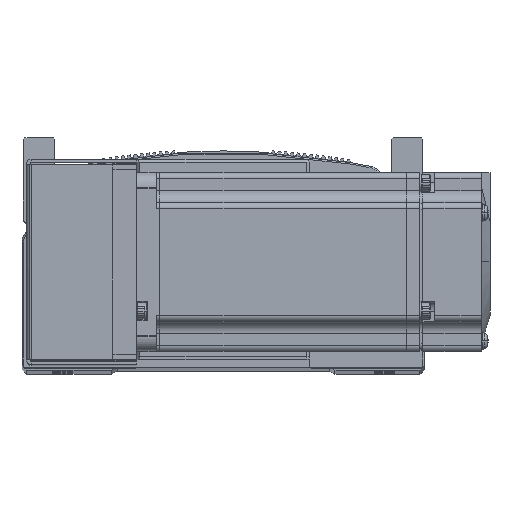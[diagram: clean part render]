
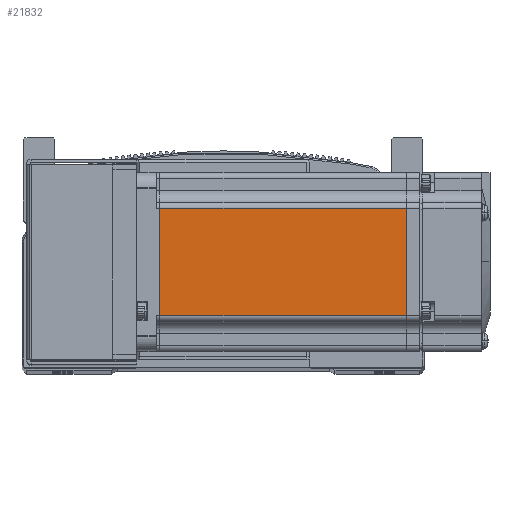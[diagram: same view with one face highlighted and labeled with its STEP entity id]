
A CAD part, top view. The second image highlights one B-rep face of the part: STEP entity #21832.
In plain terms, the highlighted planar face has unit normal (0, 0, 1) as drawn and (0, 0, -1) by its records, which use the part's own axes.
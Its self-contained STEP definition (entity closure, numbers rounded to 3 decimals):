
#19050 = AXIS2_PLACEMENT_3D ( 'NONE', #44912, #44913, #44921 ) ;
#19689 = FACE_OUTER_BOUND ( 'NONE', #30758, .T. ) ;
#21832 = ADVANCED_FACE ( 'NONE', ( #19689 ), #44897, .T. ) ;
#22893 = VECTOR ( 'NONE', #26368, 1000. ) ;
#22922 = LINE ( 'NONE', #26429, #22944 ) ;
#22933 = LINE ( 'NONE', #26354, #22893 ) ;
#22944 = VECTOR ( 'NONE', #26406, 1000. ) ;
#26354 = CARTESIAN_POINT ( 'NONE',  ( -6.5, -18., -30. ) ) ;
#26368 = DIRECTION ( 'NONE',  ( -1., 0., 0. ) ) ;
#26406 = DIRECTION ( 'NONE',  ( 0., -1., 0. ) ) ;
#26429 = CARTESIAN_POINT ( 'NONE',  ( -7.75, 25., -30. ) ) ;
#26509 = DIRECTION ( 'NONE',  ( 0., 1., 0. ) ) ;
#26531 = CARTESIAN_POINT ( 'NONE',  ( -90.45, 25., -30. ) ) ;
#26729 = CARTESIAN_POINT ( 'NONE',  ( -6.5, 18., -30. ) ) ;
#26730 = DIRECTION ( 'NONE',  ( 1., 0., 0. ) ) ;
#28433 = CARTESIAN_POINT ( 'NONE',  ( -90.45, -18., -30. ) ) ;
#28478 = CARTESIAN_POINT ( 'NONE',  ( -7.75, 18., -30. ) ) ;
#28533 = CARTESIAN_POINT ( 'NONE',  ( -90.45, 18., -30. ) ) ;
#28736 = CARTESIAN_POINT ( 'NONE',  ( -7.75, -18., -30. ) ) ;
#30758 = EDGE_LOOP ( 'NONE', ( #48404, #73144, #73163, #73152 ) ) ;
#31038 = VECTOR ( 'NONE', #26509, 1000. ) ;
#31074 = LINE ( 'NONE', #26531, #31038 ) ;
#31314 = VECTOR ( 'NONE', #26730, 1000. ) ;
#31335 = LINE ( 'NONE', #26729, #31314 ) ;
#44897 = PLANE ( 'NONE',  #19050 ) ;
#44912 = CARTESIAN_POINT ( 'NONE',  ( -6.5, 25., -30. ) ) ;
#44913 = DIRECTION ( 'NONE',  ( 0., 0., -1. ) ) ;
#44921 = DIRECTION ( 'NONE',  ( -1., 0., 0. ) ) ;
#47067 = VERTEX_POINT ( 'NONE', #28478 ) ;
#47089 = VERTEX_POINT ( 'NONE', #28433 ) ;
#47135 = VERTEX_POINT ( 'NONE', #28533 ) ;
#47237 = VERTEX_POINT ( 'NONE', #28736 ) ;
#48404 = ORIENTED_EDGE ( 'NONE', *, *, #66631, .T. ) ;
#66625 = EDGE_CURVE ( 'NONE', #47237, #47089, #22933, .T. ) ;
#66631 = EDGE_CURVE ( 'NONE', #47067, #47237, #22922, .T. ) ;
#66686 = EDGE_CURVE ( 'NONE', #47089, #47135, #31074, .T. ) ;
#66758 = EDGE_CURVE ( 'NONE', #47135, #47067, #31335, .T. ) ;
#73144 = ORIENTED_EDGE ( 'NONE', *, *, #66625, .T. ) ;
#73152 = ORIENTED_EDGE ( 'NONE', *, *, #66758, .T. ) ;
#73163 = ORIENTED_EDGE ( 'NONE', *, *, #66686, .T. ) ;
